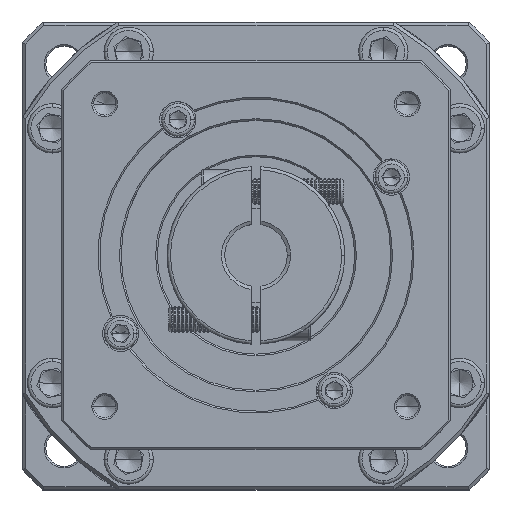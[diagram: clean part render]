
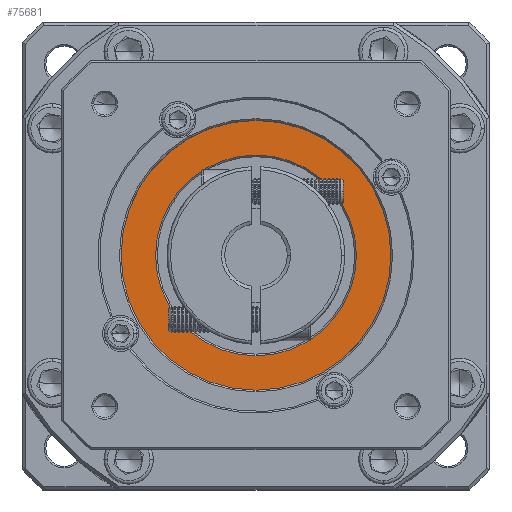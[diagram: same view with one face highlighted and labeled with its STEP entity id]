
A CAD part, top view. The second image highlights one B-rep face of the part: STEP entity #75681.
In plain terms, the highlighted planar face has unit normal (0, 0, 1).
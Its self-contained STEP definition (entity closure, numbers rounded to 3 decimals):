
#560 = FACE_OUTER_BOUND ( 'NONE', #24481, .T. ) ;
#2362 = ORIENTED_EDGE ( 'NONE', *, *, #13633, .T. ) ;
#5450 = DIRECTION ( 'NONE',  ( 0., 0., 1. ) ) ;
#9089 = ORIENTED_EDGE ( 'NONE', *, *, #17428, .T. ) ;
#10775 = VERTEX_POINT ( 'NONE', #127287 ) ;
#13633 = EDGE_CURVE ( 'NONE', #105272, #51847, #73185, .T. ) ;
#13766 = CARTESIAN_POINT ( 'NONE',  ( -84.154, 78.769, -50.671 ) ) ;
#17428 = EDGE_CURVE ( 'NONE', #10775, #38326, #61543, .T. ) ;
#18411 = DIRECTION ( 'NONE',  ( 0., 0., -1. ) ) ;
#24481 = EDGE_LOOP ( 'NONE', ( #9089, #127564 ) ) ;
#27991 = DIRECTION ( 'NONE',  ( 0., -1., 0. ) ) ;
#28769 = DIRECTION ( 'NONE',  ( 0., -1., 0. ) ) ;
#30634 = PLANE ( 'NONE',  #36338 ) ;
#30684 = EDGE_CURVE ( 'NONE', #51847, #105272, #101395, .T. ) ;
#36338 = AXIS2_PLACEMENT_3D ( 'NONE', #106328, #52303, #83238 ) ;
#38326 = VERTEX_POINT ( 'NONE', #97960 ) ;
#51042 = ORIENTED_EDGE ( 'NONE', *, *, #30684, .T. ) ;
#51847 = VERTEX_POINT ( 'NONE', #13766 ) ;
#52303 = DIRECTION ( 'NONE',  ( 0., 0., 1. ) ) ;
#54377 = DIRECTION ( 'NONE',  ( 1., 0., 0. ) ) ;
#59933 = CARTESIAN_POINT ( 'NONE',  ( -84.154, 109.269, -50.671 ) ) ;
#61543 = CIRCLE ( 'NONE', #71438, 41. ) ;
#71438 = AXIS2_PLACEMENT_3D ( 'NONE', #118767, #74090, #54377 ) ;
#73185 = CIRCLE ( 'NONE', #84448, 30.5 ) ;
#74090 = DIRECTION ( 'NONE',  ( 0., 0., 1. ) ) ;
#74961 = EDGE_CURVE ( 'NONE', #38326, #10775, #133245, .T. ) ;
#75681 = ADVANCED_FACE ( 'NONE', ( #560, #88081 ), #30634, .T. ) ;
#82322 = CARTESIAN_POINT ( 'NONE',  ( -84.154, 109.269, -50.671 ) ) ;
#83238 = DIRECTION ( 'NONE',  ( 1., 0., 0. ) ) ;
#84448 = AXIS2_PLACEMENT_3D ( 'NONE', #133789, #90987, #27991 ) ;
#88081 = FACE_BOUND ( 'NONE', #92425, .T. ) ;
#90987 = DIRECTION ( 'NONE',  ( 0., 0., -1. ) ) ;
#91043 = CARTESIAN_POINT ( 'NONE',  ( -84.154, 139.769, -50.671 ) ) ;
#92425 = EDGE_LOOP ( 'NONE', ( #51042, #2362 ) ) ;
#97960 = CARTESIAN_POINT ( 'NONE',  ( -125.154, 109.269, -50.671 ) ) ;
#101395 = CIRCLE ( 'NONE', #127613, 30.5 ) ;
#105272 = VERTEX_POINT ( 'NONE', #91043 ) ;
#106328 = CARTESIAN_POINT ( 'NONE',  ( -84.154, 109.269, -50.671 ) ) ;
#118767 = CARTESIAN_POINT ( 'NONE',  ( -84.154, 109.269, -50.671 ) ) ;
#127287 = CARTESIAN_POINT ( 'NONE',  ( -43.154, 109.269, -50.671 ) ) ;
#127564 = ORIENTED_EDGE ( 'NONE', *, *, #74961, .T. ) ;
#127613 = AXIS2_PLACEMENT_3D ( 'NONE', #82322, #18411, #28769 ) ;
#133245 = CIRCLE ( 'NONE', #138884, 41. ) ;
#133789 = CARTESIAN_POINT ( 'NONE',  ( -84.154, 109.269, -50.671 ) ) ;
#134234 = DIRECTION ( 'NONE',  ( 1., 0., 0. ) ) ;
#138884 = AXIS2_PLACEMENT_3D ( 'NONE', #59933, #5450, #134234 ) ;
